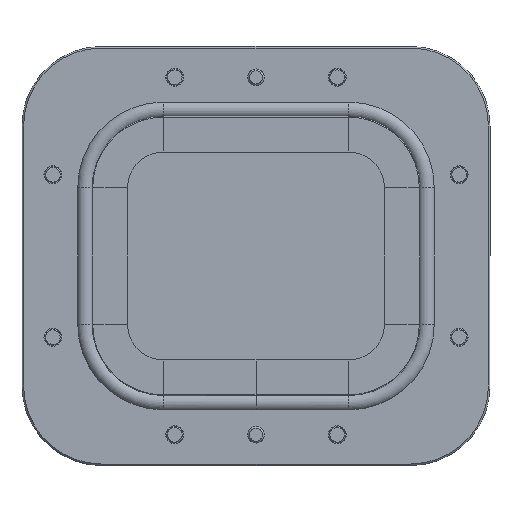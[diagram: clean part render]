
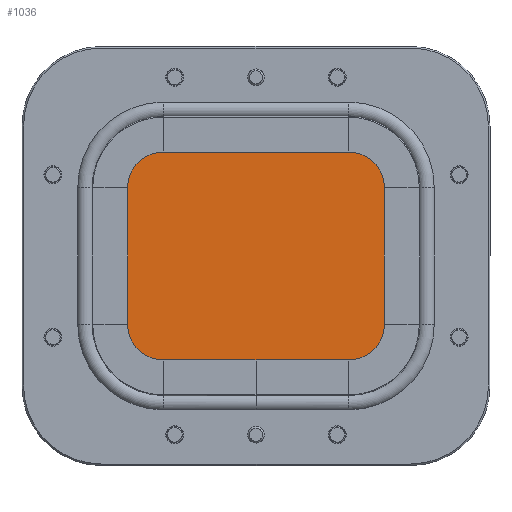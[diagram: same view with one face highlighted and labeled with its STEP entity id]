
A CAD part, front view. The second image highlights one B-rep face of the part: STEP entity #1036.
In plain terms, the highlighted planar face has unit normal (0, -1, 0).
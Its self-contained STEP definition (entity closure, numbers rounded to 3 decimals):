
#266 = PLANE ( 'NONE',  #5021 ) ;
#351 = CARTESIAN_POINT ( 'NONE',  ( -28.5, 0., 21. ) ) ;
#510 = CIRCLE ( 'NONE', #2677, 25.8 ) ;
#550 = CARTESIAN_POINT ( 'NONE',  ( -54.3, 0., 21. ) ) ;
#646 = CIRCLE ( 'NONE', #2458, 25.8 ) ;
#650 = DIRECTION ( 'NONE',  ( 0., 0., 1. ) ) ;
#706 = EDGE_CURVE ( 'NONE', #2695, #1423, #5418, .T. ) ;
#753 = DIRECTION ( 'NONE',  ( 0., 0., -1. ) ) ;
#779 = VERTEX_POINT ( 'NONE', #550 ) ;
#787 = CARTESIAN_POINT ( 'NONE',  ( -54.3, 0., 21. ) ) ;
#879 = LINE ( 'NONE', #4683, #2788 ) ;
#932 = EDGE_CURVE ( 'NONE', #1423, #5586, #879, .T. ) ;
#958 = LINE ( 'NONE', #5962, #4364 ) ;
#1014 = CARTESIAN_POINT ( 'NONE',  ( -28.5, 0., 46.8 ) ) ;
#1036 = ADVANCED_FACE ( 'NONE', ( #9703 ), #266, .F. ) ;
#1239 = DIRECTION ( 'NONE',  ( 0., -1., 0. ) ) ;
#1307 = DIRECTION ( 'NONE',  ( 0., -1., 0. ) ) ;
#1423 = VERTEX_POINT ( 'NONE', #1584 ) ;
#1482 = ORIENTED_EDGE ( 'NONE', *, *, #9603, .T. ) ;
#1584 = CARTESIAN_POINT ( 'NONE',  ( 54.3, 0., -21. ) ) ;
#1684 = CARTESIAN_POINT ( 'NONE',  ( -28.5, 0., -46.8 ) ) ;
#1767 = CARTESIAN_POINT ( 'NONE',  ( 28.5, 0., 21. ) ) ;
#1886 = DIRECTION ( 'NONE',  ( 0., 1., 0. ) ) ;
#1908 = LINE ( 'NONE', #787, #2802 ) ;
#2148 = CIRCLE ( 'NONE', #9293, 25.8 ) ;
#2458 = AXIS2_PLACEMENT_3D ( 'NONE', #351, #6791, #7680 ) ;
#2677 = AXIS2_PLACEMENT_3D ( 'NONE', #10361, #1307, #3822 ) ;
#2695 = VERTEX_POINT ( 'NONE', #8740 ) ;
#2737 = CARTESIAN_POINT ( 'NONE',  ( -54.3, 0., -21. ) ) ;
#2788 = VECTOR ( 'NONE', #650, 1000. ) ;
#2802 = VECTOR ( 'NONE', #753, 1000. ) ;
#2832 = VERTEX_POINT ( 'NONE', #1684 ) ;
#3441 = ORIENTED_EDGE ( 'NONE', *, *, #7197, .T. ) ;
#3822 = DIRECTION ( 'NONE',  ( 0., 0., 1. ) ) ;
#3885 = ORIENTED_EDGE ( 'NONE', *, *, #5574, .T. ) ;
#3911 = EDGE_LOOP ( 'NONE', ( #4980, #3441, #9375, #6896, #1482, #5148, #3885, #6053 ) ) ;
#3931 = CARTESIAN_POINT ( 'NONE',  ( 28.5, 0., 46.8 ) ) ;
#4324 = DIRECTION ( 'NONE',  ( 0., 0., 1. ) ) ;
#4364 = VECTOR ( 'NONE', #4475, 1000. ) ;
#4475 = DIRECTION ( 'NONE',  ( -1., 0., 0. ) ) ;
#4683 = CARTESIAN_POINT ( 'NONE',  ( 54.3, 0., 21. ) ) ;
#4980 = ORIENTED_EDGE ( 'NONE', *, *, #6332, .T. ) ;
#5021 = AXIS2_PLACEMENT_3D ( 'NONE', #6755, #1886, #8432 ) ;
#5146 = VERTEX_POINT ( 'NONE', #3931 ) ;
#5148 = ORIENTED_EDGE ( 'NONE', *, *, #8959, .T. ) ;
#5415 = VERTEX_POINT ( 'NONE', #2737 ) ;
#5418 = CIRCLE ( 'NONE', #8509, 25.8 ) ;
#5574 = EDGE_CURVE ( 'NONE', #9388, #779, #646, .T. ) ;
#5586 = VERTEX_POINT ( 'NONE', #9350 ) ;
#5624 = DIRECTION ( 'NONE',  ( 1., 0., 0. ) ) ;
#5962 = CARTESIAN_POINT ( 'NONE',  ( -28.5, 0., 46.8 ) ) ;
#6053 = ORIENTED_EDGE ( 'NONE', *, *, #6490, .T. ) ;
#6332 = EDGE_CURVE ( 'NONE', #5415, #2832, #510, .T. ) ;
#6490 = EDGE_CURVE ( 'NONE', #779, #5415, #1908, .T. ) ;
#6519 = DIRECTION ( 'NONE',  ( 0., -1., 0. ) ) ;
#6755 = CARTESIAN_POINT ( 'NONE',  ( -28.5, 0., 21. ) ) ;
#6791 = DIRECTION ( 'NONE',  ( 0., -1., 0. ) ) ;
#6861 = LINE ( 'NONE', #8094, #9444 ) ;
#6896 = ORIENTED_EDGE ( 'NONE', *, *, #932, .T. ) ;
#7197 = EDGE_CURVE ( 'NONE', #2832, #2695, #6861, .T. ) ;
#7434 = DIRECTION ( 'NONE',  ( 0., 0., 1. ) ) ;
#7680 = DIRECTION ( 'NONE',  ( 0., 0., 1. ) ) ;
#7774 = CARTESIAN_POINT ( 'NONE',  ( 28.5, 0., -21. ) ) ;
#8094 = CARTESIAN_POINT ( 'NONE',  ( -28.5, 0., -46.8 ) ) ;
#8432 = DIRECTION ( 'NONE',  ( 0., 0., 1. ) ) ;
#8509 = AXIS2_PLACEMENT_3D ( 'NONE', #7774, #1239, #4324 ) ;
#8740 = CARTESIAN_POINT ( 'NONE',  ( 28.5, 0., -46.8 ) ) ;
#8959 = EDGE_CURVE ( 'NONE', #5146, #9388, #958, .T. ) ;
#9293 = AXIS2_PLACEMENT_3D ( 'NONE', #1767, #6519, #7434 ) ;
#9350 = CARTESIAN_POINT ( 'NONE',  ( 54.3, 0., 21. ) ) ;
#9375 = ORIENTED_EDGE ( 'NONE', *, *, #706, .T. ) ;
#9388 = VERTEX_POINT ( 'NONE', #1014 ) ;
#9444 = VECTOR ( 'NONE', #5624, 1000. ) ;
#9603 = EDGE_CURVE ( 'NONE', #5586, #5146, #2148, .T. ) ;
#9703 = FACE_OUTER_BOUND ( 'NONE', #3911, .T. ) ;
#10361 = CARTESIAN_POINT ( 'NONE',  ( -28.5, 0., -21. ) ) ;
